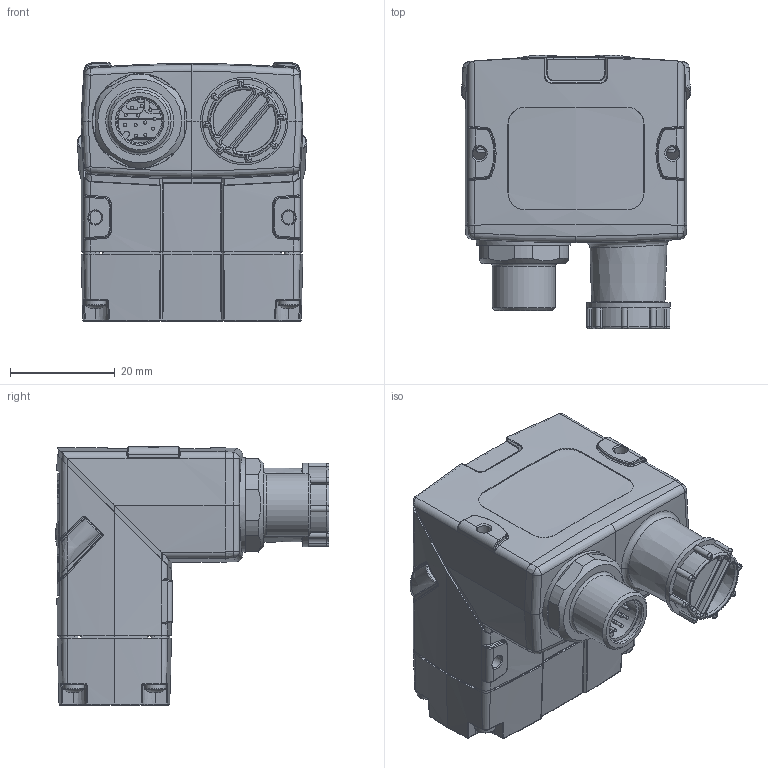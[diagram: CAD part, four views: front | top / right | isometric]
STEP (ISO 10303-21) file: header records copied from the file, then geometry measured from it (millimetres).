
FILE_DESCRIPTION (( 'STEP AP214' ), '1' );
FILE_NAME ('DM260_angled.STEP', '2015-07-01T15:27:42', ( 'anessel' ), ( 'Microsoft' ), 'SwSTEP 2.0', 'SolidWorks 2014', '' );
FILE_SCHEMA (( 'AUTOMOTIVE_DESIGN' ));
Length unit declared in the file: millimetre
Products named in the file (1): DM260_angled
Bounding box: 43.87 x 52.38 x 49.34 mm (x, y, z)
Surface area: 13502.4 mm2 (no closed solid volume)
Topology: 0 solids, 45 shells, 978 faces, 3399 edges, 2377 vertices
Faces by surface type: bspline 389, cylinder 218, plane 212, cone 81, torus 64, sphere 14
Full cylindrical faces by diameter (mm): 0.6 x12, 2.5 x4, 4 x4, 4.5 x2, 8.8 x1, 10 x1, 12 x1, 16 x1
Entity records: 60767 total; most frequent: CARTESIAN_POINT 25937, ORIENTED_EDGE 5313, DIRECTION 3700, EDGE_CURVE 3318, VERTEX_POINT 2367, B_SPLINE_CURVE_WITH_KNOTS 1442, AXIS2_PLACEMENT_3D 1419, EDGE_LOOP 1090
